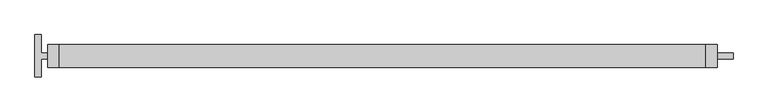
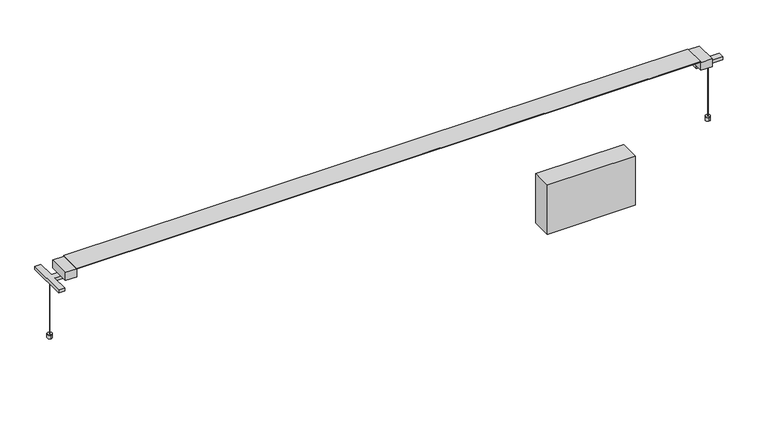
"""IFC4 building model written with IfcOpenShell, lengths in millimetres: light fixture geometry, Fabbian.Pivot F39 (F39 A01A 01,F39 A01A 21,F39 A01A 76,F39 A02A 01,F39 A02A 21,F39 A02A 76) : F39 A01A 01."""

from ifc_helpers import new_model, si_unit, point, frame, frame_2d, origin, origin_with_axes, place, context, project, spatial, polyline, circle_curve, trimmed, segment, composite_curve, outline, extrude, source, transform, mapped, element, save


def light_fixture_2914079e(model_context):
    return source(origin(), model_context, "Body", "SweptSolid", [
        extrude(outline(composite_curve([segment(trimmed(circle_curve(frame_2d((-833.8362553, 0.0)), 0.4949808), [point((-834.3312361, 0.0))], [point((-833.3412745, 0.0))], False, "CARTESIAN"), True, "CONTINUOUS"), segment(trimmed(circle_curve(frame_2d((-833.8362553, 0.0)), 0.4949808), [point((-833.3412745, 0.0))], [point((-834.3312361, 0.0))], False, "CARTESIAN"), True, "CONTINUOUS")], self_intersect=False)), origin_with_axes(), (0.0, 0.0, 1.0), 151.6242394),
        extrude(outline(composite_curve([segment(trimmed(circle_curve(frame_2d((815.8132834, 0.0)), 0.4949808), [point((816.3082642, 0.0))], [point((815.3183026, 0.0))], False, "CARTESIAN"), True, "CONTINUOUS"), segment(trimmed(circle_curve(frame_2d((815.8132834, 0.0)), 0.4949808), [point((815.3183026, 0.0))], [point((816.3082642, 0.0))], False, "CARTESIAN"), True, "CONTINUOUS")], self_intersect=False)), origin_with_axes(), (0.0, 0.0, 1.0), 151.6242394),
        extrude(outline(polyline([(619.1350388, -24.9666442), (399.1348055, -24.9666442), (399.1348055, 25.0334567), (619.1350388, 25.0334567), (619.1350388, -24.9666442)])), frame((0.0, 0.0, -142.875), z_axis=(0.0, 0.0, 1.0), x_axis=(1.0, 0.0, 0.0)), (0.0, 0.0, 1.0), 130.175),
        extrude(outline(polyline([(0.4107254, 159.893756), (0.4107254, 160.681594), (-0.4107259, 160.681594), (-0.4107259, 159.893756), (-25.5497693, 181.0787506), (26.3879175, 181.0787506), (0.4107254, 159.893756)])), frame((-782.3132834, 0.0, 0.0), z_axis=(1.0, 0.0, 0.0), x_axis=(0.0, 1.0, 0.0)), (0.0, 0.0, 1.0), 1564.6265668),
        extrude(outline(polyline([(-782.3132834, -27.7285043), (-810.5140956, -27.7285043), (-810.5140956, 27.7953166), (-782.3132834, 27.7953166), (-782.3132834, -27.7285043)])), frame((0.0, 0.0, 159.6242394), z_axis=(0.0, 0.0, 1.0), x_axis=(1.0, 0.0, 0.0)), (0.0, 0.0, 1.0), 20.8761838),
        extrude(outline(polyline([(782.3132834, -27.7285042), (782.3132834, 27.7953167), (810.5140956, 27.7953167), (810.5140956, -27.7285042), (782.3132834, -27.7285042)])), frame((0.0, 0.0, 159.6242394), z_axis=(0.0, 0.0, 1.0), x_axis=(1.0, 0.0, 0.0)), (0.0, 0.0, 1.0), 20.8761838),
        extrude(outline(polyline([(0.0, 0.8214513), (1564.6265668, 0.8214513), (1564.6265668, 0.0), (0.0, 0.0), (0.0, 0.8214513)])), frame((-782.3132834, -0.4107259, 159.893756), z_axis=(-5.7155291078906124e-11, 0.0, 1.0), x_axis=(1.0, 0.0, 5.7155291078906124e-11)), (0.0, 0.0, 1.0), 0.787838),
        extrude(outline(polyline([(781.7488887, 27.7780006), (781.7488887, -27.7779986), (-782.3132834, -27.7779986), (-782.3132834, 27.7780006), (781.7488887, 27.7780006)])), frame((0.0, 0.0, 181.0787506), z_axis=(0.0, 0.0, 1.0), x_axis=(1.0, 0.0, 0.0)), (0.0, 0.0, 1.0), 1.1514277),
        extrude(outline(composite_curve([segment(trimmed(circle_curve(frame_2d((-833.836284, 0.4556113)), 5.8155806), [point((-834.6639767, -5.3007681))], [point((-833.0085914, 6.2119906))], False, "CARTESIAN"), True, "CONTINUOUS"), segment(trimmed(circle_curve(frame_2d((-833.836284, 0.4556113)), 5.8155806), [point((-833.0085914, 6.2119906))], [point((-834.6639767, -5.3007681))], False, "CARTESIAN"), True, "CONTINUOUS")], self_intersect=False)), origin_with_axes(), (0.0, 0.0, 1.0), 9.6582083),
        extrude(outline(composite_curve([segment(trimmed(circle_curve(frame_2d((815.8133121, 0.4556113)), 5.8155806), [point((816.6410047, -5.3007681))], [point((814.9856195, 6.2119906))], False, "CARTESIAN"), True, "CONTINUOUS"), segment(trimmed(circle_curve(frame_2d((815.8133121, 0.4556113)), 5.8155806), [point((814.9856195, 6.2119906))], [point((816.6410047, -5.3007681))], False, "CARTESIAN"), True, "CONTINUOUS")], self_intersect=False)), origin_with_axes(), (0.0, 0.0, 1.0), 9.6582083),
        extrude(outline(composite_curve([segment(polyline([(-826.3132834, 51.5), (-826.3132834, 9.5)]), True, "CONTINUOUS"), segment(trimmed(circle_curve(frame_2d((-824.3132834, 9.5)), 2.0), [point((-826.3132834, 9.5))], [point((-824.3132834, 7.5))], True, "CARTESIAN"), True, "CONTINUOUS"), segment(polyline([(-824.3132834, 7.5), (-782.3132834, 7.5), (-782.3132834, -7.5), (-824.3132834, -7.5)]), True, "CONTINUOUS"), segment(trimmed(circle_curve(frame_2d((-824.3132834, -9.5)), 2.0), [point((-824.3132834, -7.5))], [point((-826.3132834, -9.5))], True, "CARTESIAN"), True, "CONTINUOUS"), segment(polyline([(-826.3132834, -9.5), (-826.3132834, -51.5), (-841.3132834, -51.5), (-841.3132834, 51.5), (-826.3132834, 51.5)]), True, "CONTINUOUS")], self_intersect=False)), frame((0.0, 0.0, 151.6242394), z_axis=(0.0, 0.0, 1.0), x_axis=(1.0, 0.0, 0.0)), (0.0, 0.0, 1.0), 8.0),
        extrude(outline(polyline([(849.3132834, 7.5334062), (849.3132834, -7.4665938), (782.3132834, -7.4665938), (782.3132834, 7.5334062), (849.3132834, 7.5334062)])), frame((0.0, 0.0, 151.6242394), z_axis=(0.0, 0.0, 1.0), x_axis=(1.0, 0.0, 0.0)), (0.0, 0.0, 1.0), 8.0),
    ])


if __name__ == "__main__":
    model = new_model("IFC4")
    model_context = context("Model", 3, world=origin())
    ifc_project = project(units=[si_unit("LENGTHUNIT", "METRE", prefix="MILLI")], contexts=[model_context])
    site = spatial("IfcSite", under=ifc_project)
    building = spatial("IfcBuilding", under=site)
    placement = place(None, origin())
    light_fixture_shape = light_fixture_2914079e(model_context)
    element("IfcLightFixture", 1, ObjectType="Fabbian.Pivot F39 (F39 A01A 01,F39 A01A 21,F39 A01A 76,F39 A02A 01,F39 A02A 21,F39 A02A 76) : F39 A01A 01", at=placement, inside=building, context=model_context, shape_type="MappedRepresentation", body=[
        mapped(light_fixture_shape, transform((0.0, 0.0, 0.0), x_axis=(1.0, 0.0, 0.0), y_axis=(0.0, 1.0, 0.0), z_axis=(0.0, 0.0, 1.0))),
    ])
    save(model, "model.ifc")
